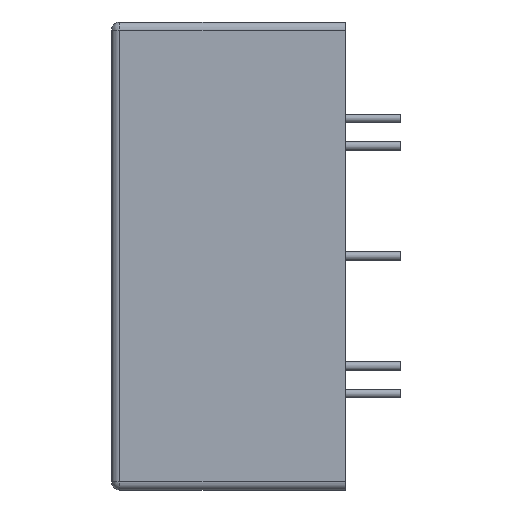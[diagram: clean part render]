
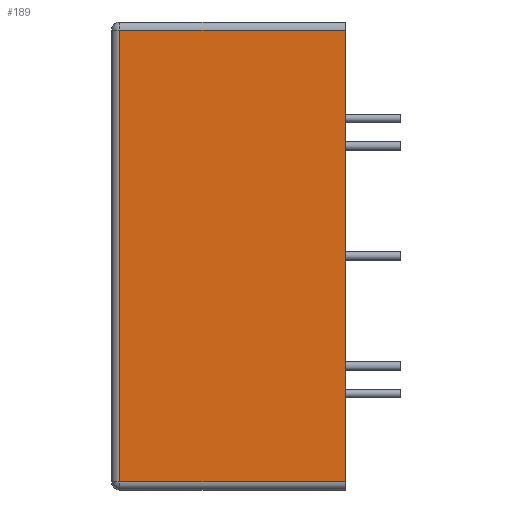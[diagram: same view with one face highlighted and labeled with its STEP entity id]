
A CAD part, left-side view. The second image highlights one B-rep face of the part: STEP entity #189.
In plain terms, the highlighted planar face has unit normal (-1, 0, 0).
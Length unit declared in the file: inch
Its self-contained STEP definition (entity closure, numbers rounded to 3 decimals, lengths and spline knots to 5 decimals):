
#1 = DIRECTION ( 'NONE',  ( 1., 0., 0. ) ) ;
#8 = DIRECTION ( 'NONE',  ( 0., -1., 0. ) ) ;
#68 = AXIS2_PLACEMENT_3D ( 'NONE', #1039, #1, #1358 ) ;
#70 = ORIENTED_EDGE ( 'NONE', *, *, #140, .T. ) ;
#98 = VECTOR ( 'NONE', #256, 39.37008 ) ;
#117 = DIRECTION ( 'NONE',  ( 0., 1., 0. ) ) ;
#140 = EDGE_CURVE ( 'NONE', #323, #608, #820, .T. ) ;
#146 = EDGE_LOOP ( 'NONE', ( #1330, #746, #1069, #70 ) ) ;
#170 = VECTOR ( 'NONE', #1137, 39.37008 ) ;
#189 = ADVANCED_FACE ( 'NONE', ( #1192 ), #814, .F. ) ;
#256 = DIRECTION ( 'NONE',  ( 0., 0., -1. ) ) ;
#281 = VERTEX_POINT ( 'NONE', #1373 ) ;
#323 = VERTEX_POINT ( 'NONE', #1430 ) ;
#507 = LINE ( 'NONE', #1148, #1194 ) ;
#531 = VERTEX_POINT ( 'NONE', #561 ) ;
#561 = CARTESIAN_POINT ( 'NONE',  ( -1.4, 0., -0.82 ) ) ;
#571 = CARTESIAN_POINT ( 'NONE',  ( -1.4, 0.82, 0.82 ) ) ;
#608 = VERTEX_POINT ( 'NONE', #571 ) ;
#644 = LINE ( 'NONE', #1355, #170 ) ;
#662 = EDGE_CURVE ( 'NONE', #531, #323, #644, .T. ) ;
#721 = CARTESIAN_POINT ( 'NONE',  ( -1.4, 0.82, 0.85 ) ) ;
#744 = EDGE_CURVE ( 'NONE', #608, #281, #1166, .T. ) ;
#746 = ORIENTED_EDGE ( 'NONE', *, *, #1049, .T. ) ;
#814 = PLANE ( 'NONE',  #68 ) ;
#820 = LINE ( 'NONE', #1324, #974 ) ;
#974 = VECTOR ( 'NONE', #117, 39.37008 ) ;
#1039 = CARTESIAN_POINT ( 'NONE',  ( -1.4, 0.85, 0.85 ) ) ;
#1049 = EDGE_CURVE ( 'NONE', #281, #531, #507, .T. ) ;
#1069 = ORIENTED_EDGE ( 'NONE', *, *, #662, .T. ) ;
#1137 = DIRECTION ( 'NONE',  ( 0., 0., 1. ) ) ;
#1148 = CARTESIAN_POINT ( 'NONE',  ( -1.4, 0.85, -0.82 ) ) ;
#1166 = LINE ( 'NONE', #721, #98 ) ;
#1192 = FACE_OUTER_BOUND ( 'NONE', #146, .T. ) ;
#1194 = VECTOR ( 'NONE', #8, 39.37008 ) ;
#1324 = CARTESIAN_POINT ( 'NONE',  ( -1.4, 0.85, 0.82 ) ) ;
#1330 = ORIENTED_EDGE ( 'NONE', *, *, #744, .T. ) ;
#1355 = CARTESIAN_POINT ( 'NONE',  ( -1.4, 0., 0.85 ) ) ;
#1358 = DIRECTION ( 'NONE',  ( 0., 0., -1. ) ) ;
#1373 = CARTESIAN_POINT ( 'NONE',  ( -1.4, 0.82, -0.82 ) ) ;
#1430 = CARTESIAN_POINT ( 'NONE',  ( -1.4, 0., 0.82 ) ) ;
